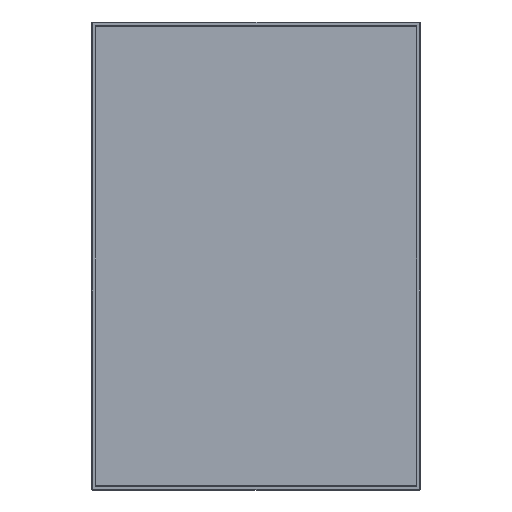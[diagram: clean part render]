
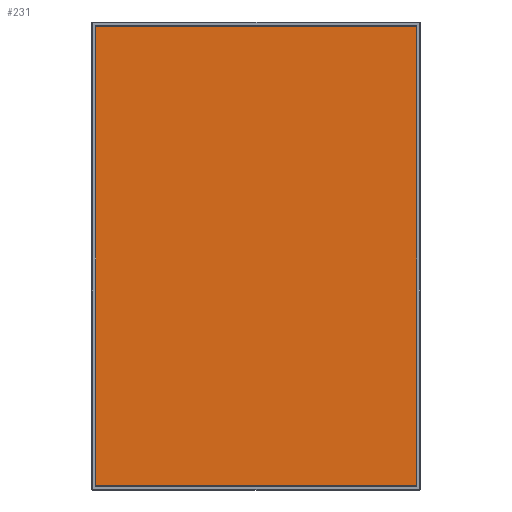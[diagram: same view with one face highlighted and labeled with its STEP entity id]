
A CAD part, top view. The second image highlights one B-rep face of the part: STEP entity #231.
In plain terms, the highlighted free-form (B-spline) face has degree [1, 1] with [2, 2] control points.
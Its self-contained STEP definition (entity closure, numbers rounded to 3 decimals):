
#231=ADVANCED_FACE('',(#321),#1155,.T.);
#321=FACE_OUTER_BOUND('',#413,.T.);
#413=EDGE_LOOP('',(#739,#740,#741,#742));
#739=ORIENTED_EDGE('',*,*,#954,.F.);
#740=ORIENTED_EDGE('',*,*,#946,.T.);
#741=ORIENTED_EDGE('',*,*,#953,.T.);
#742=ORIENTED_EDGE('',*,*,#948,.F.);
#946=EDGE_CURVE('',#1072,#1074,#1286,.T.);
#948=EDGE_CURVE('',#1075,#1077,#1288,.T.);
#953=EDGE_CURVE('',#1074,#1077,#1293,.T.);
#954=EDGE_CURVE('',#1072,#1075,#1294,.T.);
#1072=VERTEX_POINT('',#6303);
#1074=VERTEX_POINT('',#6305);
#1075=VERTEX_POINT('',#6306);
#1077=VERTEX_POINT('',#6308);
#1155=B_SPLINE_SURFACE_WITH_KNOTS('',1,1,((#6294,#6295),(#6296,#6297)),.UNSPECIFIED.,
.F.,.F.,.F.,(2,2),(2,2),(0.,1.),(0.,1.),.UNSPECIFIED.);
#1286=B_SPLINE_CURVE_WITH_KNOTS('',1,(#6260,#6261),.UNSPECIFIED.,.F.,.F.,
(2,2),(0.,1.),.UNSPECIFIED.);
#1288=B_SPLINE_CURVE_WITH_KNOTS('',1,(#6264,#6265),.UNSPECIFIED.,.F.,.F.,
(2,2),(0.,1.),.UNSPECIFIED.);
#1293=B_SPLINE_CURVE_WITH_KNOTS('',1,(#6274,#6275),.UNSPECIFIED.,.F.,.F.,
(2,2),(0.,1.),.UNSPECIFIED.);
#1294=B_SPLINE_CURVE_WITH_KNOTS('',1,(#6276,#6277),.UNSPECIFIED.,.F.,.F.,
(2,2),(0.,1.),.UNSPECIFIED.);
#6260=CARTESIAN_POINT('',(268.49,383.151,5.91));
#6261=CARTESIAN_POINT('',(-266.51,383.151,5.91));
#6264=CARTESIAN_POINT('',(268.49,-385.656,5.91));
#6265=CARTESIAN_POINT('',(-266.51,-385.656,5.91));
#6274=CARTESIAN_POINT('',(-266.51,383.151,5.91));
#6275=CARTESIAN_POINT('',(-266.51,-385.656,5.91));
#6276=CARTESIAN_POINT('',(268.49,383.151,5.91));
#6277=CARTESIAN_POINT('',(268.49,-385.656,5.91));
#6294=CARTESIAN_POINT('',(268.49,383.151,5.91));
#6295=CARTESIAN_POINT('',(268.49,-385.656,5.91));
#6296=CARTESIAN_POINT('',(-266.51,383.151,5.91));
#6297=CARTESIAN_POINT('',(-266.51,-385.656,5.91));
#6303=CARTESIAN_POINT('',(268.49,383.151,5.91));
#6305=CARTESIAN_POINT('',(-266.51,383.151,5.91));
#6306=CARTESIAN_POINT('',(268.49,-385.656,5.91));
#6308=CARTESIAN_POINT('',(-266.51,-385.656,5.91));
